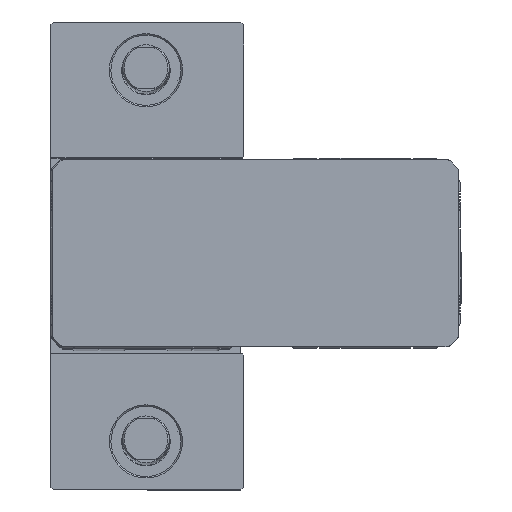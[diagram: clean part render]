
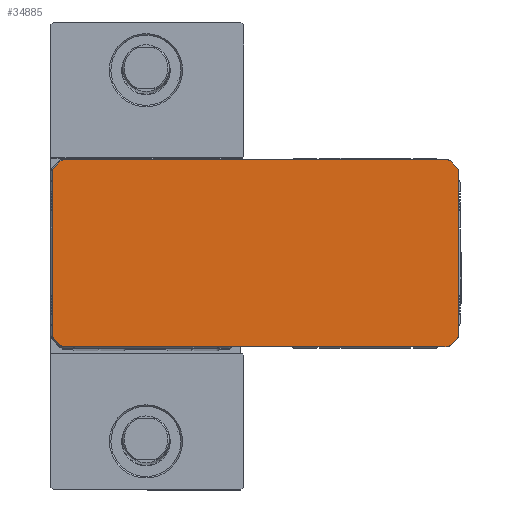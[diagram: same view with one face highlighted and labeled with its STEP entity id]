
A CAD part, top view. The second image highlights one B-rep face of the part: STEP entity #34885.
In plain terms, the highlighted planar face has unit normal (0, 0, 1).
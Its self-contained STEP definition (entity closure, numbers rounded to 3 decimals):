
#377 = DIRECTION ( 'NONE',  ( 0., 0., 1. ) ) ;
#766 = DIRECTION ( 'NONE',  ( -1., 0., 0. ) ) ;
#938 = EDGE_CURVE ( 'NONE', #16772, #42410, #16831, .T. ) ;
#998 = CARTESIAN_POINT ( 'NONE',  ( -30.5, -28., 552.5 ) ) ;
#1489 = DIRECTION ( 'NONE',  ( 1., 0., 0. ) ) ;
#1865 = EDGE_CURVE ( 'NONE', #5868, #41414, #30101, .T. ) ;
#2138 = LINE ( 'NONE', #29555, #37208 ) ;
#2413 = CARTESIAN_POINT ( 'NONE',  ( 105.5, 28., 552.5 ) ) ;
#2561 = CARTESIAN_POINT ( 'NONE',  ( -29.061, -31.561, 552.5 ) ) ;
#2644 = VERTEX_POINT ( 'NONE', #12482 ) ;
#2656 = DIRECTION ( 'NONE',  ( 0., 0., 1. ) ) ;
#2771 = EDGE_CURVE ( 'NONE', #34275, #8154, #31108, .T. ) ;
#3040 = ORIENTED_EDGE ( 'NONE', *, *, #9885, .T. ) ;
#3348 = VECTOR ( 'NONE', #34832, 1000. ) ;
#4018 = CARTESIAN_POINT ( 'NONE',  ( 104.061, 31.561, 552.5 ) ) ;
#4169 = AXIS2_PLACEMENT_3D ( 'NONE', #38653, #17690, #42138 ) ;
#4300 = CARTESIAN_POINT ( 'NONE',  ( 103., 32., 552.5 ) ) ;
#4553 = DIRECTION ( 'NONE',  ( 1., 0., 0. ) ) ;
#5636 = ORIENTED_EDGE ( 'NONE', *, *, #29359, .T. ) ;
#5868 = VERTEX_POINT ( 'NONE', #26856 ) ;
#5961 = DIRECTION ( 'NONE',  ( 1., 0., 0. ) ) ;
#6577 = VERTEX_POINT ( 'NONE', #25877 ) ;
#7073 = CARTESIAN_POINT ( 'NONE',  ( 103., 30.5, 552.5 ) ) ;
#7134 = ORIENTED_EDGE ( 'NONE', *, *, #13379, .T. ) ;
#8154 = VERTEX_POINT ( 'NONE', #38521 ) ;
#8319 = LINE ( 'NONE', #40659, #16528 ) ;
#8644 = VECTOR ( 'NONE', #766, 1000. ) ;
#8681 = DIRECTION ( 'NONE',  ( 1., 0., 0. ) ) ;
#8861 = EDGE_CURVE ( 'NONE', #11949, #41177, #15951, .T. ) ;
#9012 = CARTESIAN_POINT ( 'NONE',  ( -31.561, 29.061, 552.5 ) ) ;
#9100 = DIRECTION ( 'NONE',  ( 0.707, -0.707, 0. ) ) ;
#9885 = EDGE_CURVE ( 'NONE', #17708, #23397, #23553, .T. ) ;
#10079 = ORIENTED_EDGE ( 'NONE', *, *, #37414, .T. ) ;
#10106 = CARTESIAN_POINT ( 'NONE',  ( -29.061, 31.561, 552.5 ) ) ;
#10197 = CIRCLE ( 'NONE', #35885, 1.5 ) ;
#10620 = DIRECTION ( 'NONE',  ( 1., 0., 0. ) ) ;
#11379 = ORIENTED_EDGE ( 'NONE', *, *, #27319, .T. ) ;
#11427 = ORIENTED_EDGE ( 'NONE', *, *, #17563, .T. ) ;
#11436 = VERTEX_POINT ( 'NONE', #27279 ) ;
#11933 = EDGE_CURVE ( 'NONE', #41414, #11436, #19505, .T. ) ;
#11949 = VERTEX_POINT ( 'NONE', #10106 ) ;
#12482 = CARTESIAN_POINT ( 'NONE',  ( -28., -32., 552.5 ) ) ;
#13089 = CARTESIAN_POINT ( 'NONE',  ( 103., -32., 552.5 ) ) ;
#13379 = EDGE_CURVE ( 'NONE', #42410, #6577, #27293, .T. ) ;
#13617 = CARTESIAN_POINT ( 'NONE',  ( 105.5, -28., 552.5 ) ) ;
#13632 = CIRCLE ( 'NONE', #17237, 1.5 ) ;
#14788 = VERTEX_POINT ( 'NONE', #34513 ) ;
#15094 = AXIS2_PLACEMENT_3D ( 'NONE', #998, #25517, #4553 ) ;
#15476 = AXIS2_PLACEMENT_3D ( 'NONE', #2413, #26919, #5961 ) ;
#15951 = LINE ( 'NONE', #31330, #3348 ) ;
#15965 = ORIENTED_EDGE ( 'NONE', *, *, #32639, .T. ) ;
#16096 = CARTESIAN_POINT ( 'NONE',  ( 103., 32., 552.5 ) ) ;
#16528 = VECTOR ( 'NONE', #9100, 1000. ) ;
#16772 = VERTEX_POINT ( 'NONE', #4018 ) ;
#16831 = CIRCLE ( 'NONE', #17547, 1.5 ) ;
#17149 = DIRECTION ( 'NONE',  ( 1., 0., 0. ) ) ;
#17199 = AXIS2_PLACEMENT_3D ( 'NONE', #17517, #41960, #21041 ) ;
#17237 = AXIS2_PLACEMENT_3D ( 'NONE', #21398, #377, #24914 ) ;
#17358 = DIRECTION ( 'NONE',  ( -0.707, 0.707, 0. ) ) ;
#17517 = CARTESIAN_POINT ( 'NONE',  ( -28., 30.5, 552.5 ) ) ;
#17547 = AXIS2_PLACEMENT_3D ( 'NONE', #7073, #31601, #10620 ) ;
#17563 = EDGE_CURVE ( 'NONE', #8154, #41281, #8319, .T. ) ;
#17612 = VECTOR ( 'NONE', #17358, 1000. ) ;
#17690 = DIRECTION ( 'NONE',  ( 0., 0., 1. ) ) ;
#17708 = VERTEX_POINT ( 'NONE', #24288 ) ;
#19505 = CIRCLE ( 'NONE', #36653, 1.5 ) ;
#19998 = DIRECTION ( 'NONE',  ( 0., 1., 0. ) ) ;
#20323 = DIRECTION ( 'NONE',  ( 0.707, 0.707, 0. ) ) ;
#21041 = DIRECTION ( 'NONE',  ( 1., 0., 0. ) ) ;
#21291 = EDGE_CURVE ( 'NONE', #41177, #14788, #10197, .T. ) ;
#21398 = CARTESIAN_POINT ( 'NONE',  ( -28., -30.5, 552.5 ) ) ;
#22027 = PLANE ( 'NONE',  #15094 ) ;
#22291 = CARTESIAN_POINT ( 'NONE',  ( 106.561, 29.061, 552.5 ) ) ;
#22523 = DIRECTION ( 'NONE',  ( 0., 0., 1. ) ) ;
#23397 = VERTEX_POINT ( 'NONE', #22291 ) ;
#23553 = CIRCLE ( 'NONE', #15476, 1.5 ) ;
#23682 = CARTESIAN_POINT ( 'NONE',  ( -30.5, -28., 552.5 ) ) ;
#24288 = CARTESIAN_POINT ( 'NONE',  ( 107., 28., 552.5 ) ) ;
#24339 = CARTESIAN_POINT ( 'NONE',  ( 106.561, -29.061, 552.5 ) ) ;
#24402 = CARTESIAN_POINT ( 'NONE',  ( 106.561, 29.061, 552.5 ) ) ;
#24913 = EDGE_CURVE ( 'NONE', #2644, #32451, #2138, .T. ) ;
#24914 = DIRECTION ( 'NONE',  ( 1., 0., 0. ) ) ;
#24979 = CIRCLE ( 'NONE', #4169, 1.5 ) ;
#25266 = EDGE_CURVE ( 'NONE', #41281, #2644, #13632, .T. ) ;
#25407 = LINE ( 'NONE', #44432, #34723 ) ;
#25517 = DIRECTION ( 'NONE',  ( 0., 0., 1. ) ) ;
#25780 = ORIENTED_EDGE ( 'NONE', *, *, #24913, .T. ) ;
#25877 = CARTESIAN_POINT ( 'NONE',  ( -28., 32., 552.5 ) ) ;
#26210 = ORIENTED_EDGE ( 'NONE', *, *, #21291, .T. ) ;
#26856 = CARTESIAN_POINT ( 'NONE',  ( 104.061, -31.561, 552.5 ) ) ;
#26919 = DIRECTION ( 'NONE',  ( 0., 0., 1. ) ) ;
#27184 = DIRECTION ( 'NONE',  ( 1., 0., 0. ) ) ;
#27279 = CARTESIAN_POINT ( 'NONE',  ( 107., -28., 552.5 ) ) ;
#27293 = LINE ( 'NONE', #4300, #8644 ) ;
#27319 = EDGE_CURVE ( 'NONE', #11436, #17708, #25407, .T. ) ;
#27617 = DIRECTION ( 'NONE',  ( 0., -1., 0. ) ) ;
#28348 = CARTESIAN_POINT ( 'NONE',  ( -32., -28., 552.5 ) ) ;
#28539 = CIRCLE ( 'NONE', #17199, 1.5 ) ;
#28826 = ORIENTED_EDGE ( 'NONE', *, *, #11933, .T. ) ;
#29126 = LINE ( 'NONE', #24402, #17612 ) ;
#29359 = EDGE_CURVE ( 'NONE', #23397, #16772, #29126, .T. ) ;
#29555 = CARTESIAN_POINT ( 'NONE',  ( -28., -32., 552.5 ) ) ;
#30101 = LINE ( 'NONE', #44795, #39395 ) ;
#30292 = ORIENTED_EDGE ( 'NONE', *, *, #2771, .T. ) ;
#30337 = ORIENTED_EDGE ( 'NONE', *, *, #938, .T. ) ;
#31108 = CIRCLE ( 'NONE', #35526, 1.5 ) ;
#31330 = CARTESIAN_POINT ( 'NONE',  ( -29.061, 31.561, 552.5 ) ) ;
#31601 = DIRECTION ( 'NONE',  ( 0., 0., 1. ) ) ;
#32451 = VERTEX_POINT ( 'NONE', #13089 ) ;
#32639 = EDGE_CURVE ( 'NONE', #32451, #5868, #24979, .T. ) ;
#34275 = VERTEX_POINT ( 'NONE', #28348 ) ;
#34513 = CARTESIAN_POINT ( 'NONE',  ( -32., 28., 552.5 ) ) ;
#34723 = VECTOR ( 'NONE', #19998, 1000. ) ;
#34832 = DIRECTION ( 'NONE',  ( -0.707, -0.707, 0. ) ) ;
#34885 = ADVANCED_FACE ( 'NONE', ( #44991 ), #22027, .T. ) ;
#35526 = AXIS2_PLACEMENT_3D ( 'NONE', #23682, #2656, #27184 ) ;
#35726 = ORIENTED_EDGE ( 'NONE', *, *, #8861, .T. ) ;
#35885 = AXIS2_PLACEMENT_3D ( 'NONE', #43446, #22523, #1489 ) ;
#36058 = VECTOR ( 'NONE', #27617, 1000. ) ;
#36653 = AXIS2_PLACEMENT_3D ( 'NONE', #13617, #38103, #17149 ) ;
#37208 = VECTOR ( 'NONE', #8681, 1000. ) ;
#37414 = EDGE_CURVE ( 'NONE', #14788, #34275, #45348, .T. ) ;
#38103 = DIRECTION ( 'NONE',  ( 0., 0., 1. ) ) ;
#38521 = CARTESIAN_POINT ( 'NONE',  ( -31.561, -29.061, 552.5 ) ) ;
#38653 = CARTESIAN_POINT ( 'NONE',  ( 103., -30.5, 552.5 ) ) ;
#39395 = VECTOR ( 'NONE', #20323, 1000. ) ;
#39432 = EDGE_LOOP ( 'NONE', ( #30292, #11427, #43864, #25780, #15965, #40722, #28826, #11379, #3040, #5636, #30337, #7134, #45058, #35726, #26210, #10079 ) ) ;
#40659 = CARTESIAN_POINT ( 'NONE',  ( -31.561, -29.061, 552.5 ) ) ;
#40722 = ORIENTED_EDGE ( 'NONE', *, *, #1865, .T. ) ;
#41177 = VERTEX_POINT ( 'NONE', #9012 ) ;
#41281 = VERTEX_POINT ( 'NONE', #2561 ) ;
#41414 = VERTEX_POINT ( 'NONE', #24339 ) ;
#41960 = DIRECTION ( 'NONE',  ( 0., 0., 1. ) ) ;
#42138 = DIRECTION ( 'NONE',  ( 1., 0., 0. ) ) ;
#42410 = VERTEX_POINT ( 'NONE', #16096 ) ;
#43446 = CARTESIAN_POINT ( 'NONE',  ( -30.5, 28., 552.5 ) ) ;
#43864 = ORIENTED_EDGE ( 'NONE', *, *, #25266, .T. ) ;
#44247 = EDGE_CURVE ( 'NONE', #6577, #11949, #28539, .T. ) ;
#44432 = CARTESIAN_POINT ( 'NONE',  ( 107., -28., 552.5 ) ) ;
#44795 = CARTESIAN_POINT ( 'NONE',  ( 104.061, -31.561, 552.5 ) ) ;
#44991 = FACE_OUTER_BOUND ( 'NONE', #39432, .T. ) ;
#45042 = CARTESIAN_POINT ( 'NONE',  ( -32., 28., 552.5 ) ) ;
#45058 = ORIENTED_EDGE ( 'NONE', *, *, #44247, .T. ) ;
#45348 = LINE ( 'NONE', #45042, #36058 ) ;
